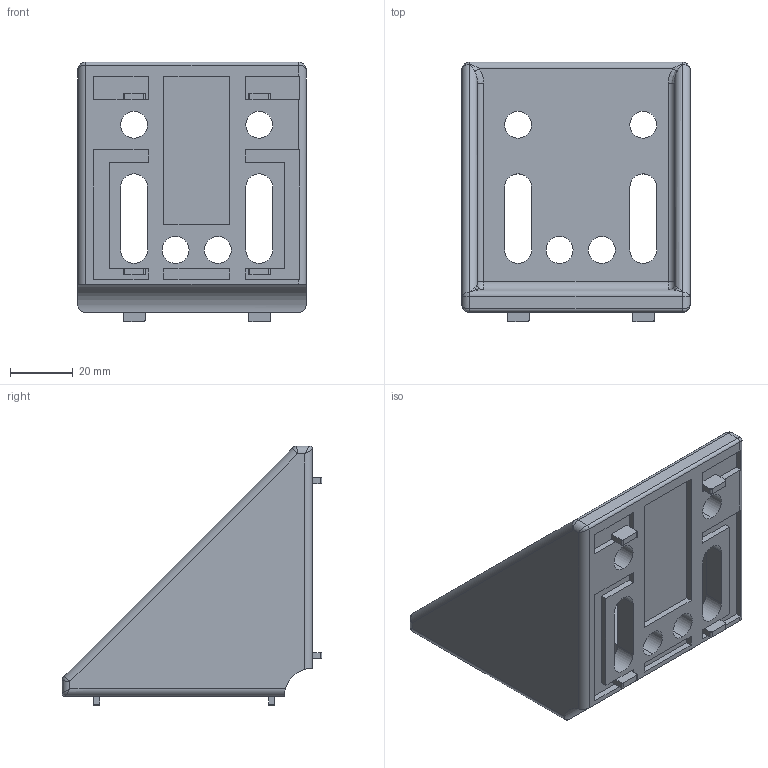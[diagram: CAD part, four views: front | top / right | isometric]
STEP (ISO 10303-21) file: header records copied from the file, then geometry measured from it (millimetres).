
FILE_DESCRIPTION (( 'STEP AP203' ), '1' );
FILE_NAME ('WT8080.STEP', '2024-02-19T06:27:12', ( '' ), ( '' ), 'SwSTEP 2.0', 'SolidWorks 2022', '' );
FILE_SCHEMA (( 'CONFIG_CONTROL_DESIGN' ));
Length unit declared in the file: millimetre
Products named in the file (1): WT8080
Bounding box: 73 x 83 x 83 mm (x, y, z)
Volume: 81701.7 mm3; surface area: 37093.2 mm2
Topology: 1 solids, 1 shells, 224 faces, 598 edges, 372 vertices
Faces by surface type: plane 142, cylinder 64, bspline 16, torus 2
Entity records: 7389 total; most frequent: CARTESIAN_POINT 1827, ORIENTED_EDGE 1172, DIRECTION 1086, EDGE_CURVE 586, VECTOR 432, LINE 432, VERTEX_POINT 372, AXIS2_PLACEMENT_3D 327
